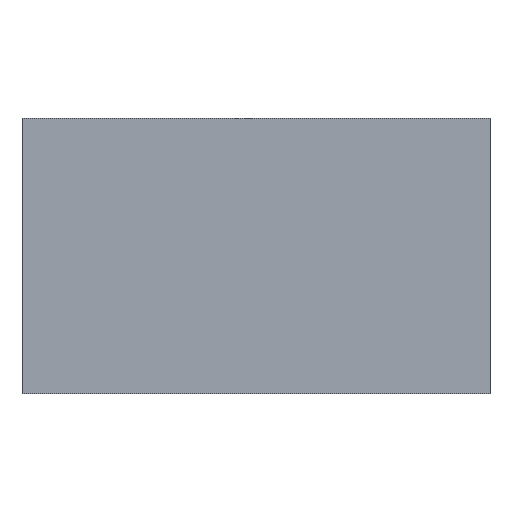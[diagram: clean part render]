
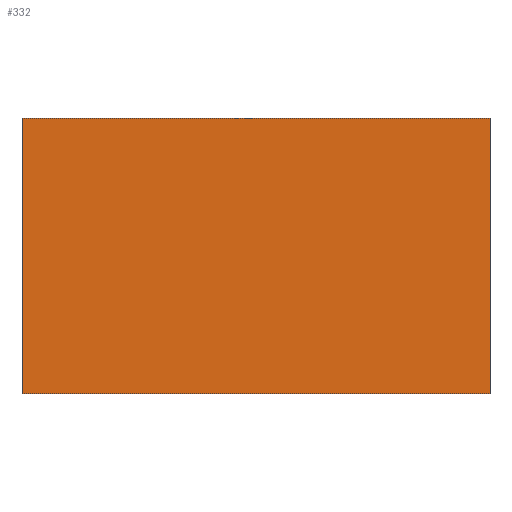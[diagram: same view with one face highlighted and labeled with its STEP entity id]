
A CAD part, front view. The second image highlights one B-rep face of the part: STEP entity #332.
In plain terms, the highlighted planar face has unit normal (0, -1, 0).
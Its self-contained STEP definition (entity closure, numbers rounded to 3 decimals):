
#332=ADVANCED_FACE('',(#600),#602,.T.);
#600=FACE_BOUND('',#601,.T.);
#601=EDGE_LOOP('',(#793,#794,#795,#796));
#602=PLANE('',#603);
#603=AXIS2_PLACEMENT_3D('',#604,#605,#606);
#604=CARTESIAN_POINT('',(-68.,-54.,0.));
#605=DIRECTION('',(0.,-1.,0.));
#606=DIRECTION('',(1.,0.,0.));
#793=ORIENTED_EDGE('',*,*,#861,.T.);
#794=ORIENTED_EDGE('',*,*,#894,.T.);
#795=ORIENTED_EDGE('',*,*,#868,.F.);
#796=ORIENTED_EDGE('',*,*,#895,.F.);
#861=EDGE_CURVE('',#999,#997,#1000,.T.);
#868=EDGE_CURVE('',#1010,#1012,#1013,.T.);
#894=EDGE_CURVE('',#997,#1012,#1050,.T.);
#895=EDGE_CURVE('',#999,#1010,#1051,.T.);
#997=VERTEX_POINT('',#1278);
#999=VERTEX_POINT('',#1282);
#1000=LINE('',#1283,#1284);
#1010=VERTEX_POINT('',#1305);
#1012=VERTEX_POINT('',#1309);
#1013=LINE('',#1310,#1311);
#1050=LINE('',#1402,#1403);
#1051=LINE('',#1405,#1406);
#1278=CARTESIAN_POINT('',(68.,-54.,0.));
#1282=CARTESIAN_POINT('',(-68.,-54.,0.));
#1283=CARTESIAN_POINT('',(-68.,-54.,0.));
#1284=VECTOR('',#1285,1.);
#1285=DIRECTION('',(1.,0.,0.));
#1305=CARTESIAN_POINT('',(-68.,-54.,80.));
#1309=CARTESIAN_POINT('',(68.,-54.,80.));
#1310=CARTESIAN_POINT('',(-68.,-54.,80.));
#1311=VECTOR('',#1312,1.);
#1312=DIRECTION('',(1.,0.,0.));
#1402=CARTESIAN_POINT('',(68.,-54.,0.));
#1403=VECTOR('',#1404,1.);
#1404=DIRECTION('',(0.,0.,1.));
#1405=CARTESIAN_POINT('',(-68.,-54.,0.));
#1406=VECTOR('',#1407,1.);
#1407=DIRECTION('',(0.,0.,1.));
